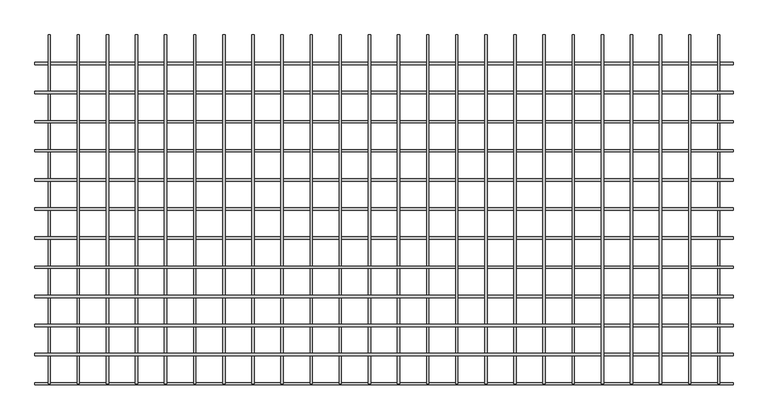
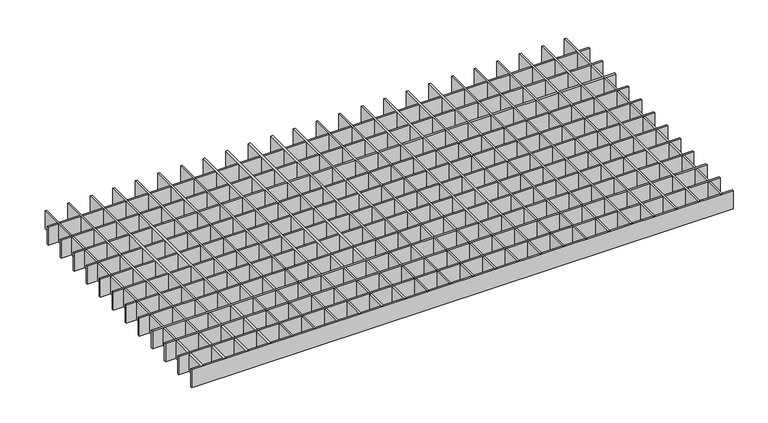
"""IFC4 building model written with IfcOpenShell, lengths in millimetres: proxy geometry, durlum_GEO_panel : durlum_GEO_4."""

from ifc_helpers import new_model, si_unit, origin, origin_with_axes, place, context, project, spatial, polyline, outline, extrude, source, transform, mapped, element, save


def generic_models_4dc628ab(model_context):
    return source(origin(), model_context, "Body", "SweptSolid", [
        extrude(outline(polyline([(523.0, 299.5), (527.0, 299.5), (527.0, -299.5), (523.0, -299.5), (523.0, 299.5)])), origin_with_axes(), (0.0, 0.0, 1.0), 42.0),
        extrude(outline(polyline([(473.0, 299.5), (477.0, 299.5), (477.0, -299.5), (473.0, -299.5), (473.0, 299.5)])), origin_with_axes(), (0.0, 0.0, 1.0), 42.0),
        extrude(outline(polyline([(423.0, 299.5), (427.0, 299.5), (427.0, -299.5), (423.0, -299.5), (423.0, 299.5)])), origin_with_axes(), (0.0, 0.0, 1.0), 42.0),
        extrude(outline(polyline([(373.0, 299.5), (377.0, 299.5), (377.0, -299.5), (373.0, -299.5), (373.0, 299.5)])), origin_with_axes(), (0.0, 0.0, 1.0), 42.0),
        extrude(outline(polyline([(599.5, -247.5), (599.5, -251.5), (-599.5, -251.5), (-599.5, -247.5), (599.5, -247.5)])), origin_with_axes(), (0.0, 0.0, 1.0), 42.0),
        extrude(outline(polyline([(599.5, -197.5), (599.5, -201.5), (-599.5, -201.5), (-599.5, -197.5), (599.5, -197.5)])), origin_with_axes(), (0.0, 0.0, 1.0), 42.0),
        extrude(outline(polyline([(323.0, 299.5), (327.0, 299.5), (327.0, -299.5), (323.0, -299.5), (323.0, 299.5)])), origin_with_axes(), (0.0, 0.0, 1.0), 42.0),
        extrude(outline(polyline([(273.0, 299.5), (277.0, 299.5), (277.0, -299.5), (273.0, -299.5), (273.0, 299.5)])), origin_with_axes(), (0.0, 0.0, 1.0), 42.0),
        extrude(outline(polyline([(223.0, 299.5), (227.0, 299.5), (227.0, -299.5), (223.0, -299.5), (223.0, 299.5)])), origin_with_axes(), (0.0, 0.0, 1.0), 42.0),
        extrude(outline(polyline([(173.0, 299.5), (177.0, 299.5), (177.0, -299.5), (173.0, -299.5), (173.0, 299.5)])), origin_with_axes(), (0.0, 0.0, 1.0), 42.0),
        extrude(outline(polyline([(123.0, 299.5), (127.0, 299.5), (127.0, -299.5), (123.0, -299.5), (123.0, 299.5)])), origin_with_axes(), (0.0, 0.0, 1.0), 42.0),
        extrude(outline(polyline([(599.5, -147.5), (599.5, -151.5), (-599.5, -151.5), (-599.5, -147.5), (599.5, -147.5)])), origin_with_axes(), (0.0, 0.0, 1.0), 42.0),
        extrude(outline(polyline([(599.5, -97.5), (599.5, -101.5), (-599.5, -101.5), (-599.5, -97.5), (599.5, -97.5)])), origin_with_axes(), (0.0, 0.0, 1.0), 42.0),
        extrude(outline(polyline([(73.0, 299.5), (77.0, 299.5), (77.0, -299.5), (73.0, -299.5), (73.0, 299.5)])), origin_with_axes(), (0.0, 0.0, 1.0), 42.0),
        extrude(outline(polyline([(23.0, 299.5), (27.0, 299.5), (27.0, -299.5), (23.0, -299.5), (23.0, 299.5)])), origin_with_axes(), (0.0, 0.0, 1.0), 42.0),
        extrude(outline(polyline([(-27.0, 299.5), (-23.0, 299.5), (-23.0, -299.5), (-27.0, -299.5), (-27.0, 299.5)])), origin_with_axes(), (0.0, 0.0, 1.0), 42.0),
        extrude(outline(polyline([(-77.0, 299.5), (-73.0, 299.5), (-73.0, -299.5), (-77.0, -299.5), (-77.0, 299.5)])), origin_with_axes(), (0.0, 0.0, 1.0), 42.0),
        extrude(outline(polyline([(-127.0, 299.5), (-123.0, 299.5), (-123.0, -299.5), (-127.0, -299.5), (-127.0, 299.5)])), origin_with_axes(), (0.0, 0.0, 1.0), 42.0),
        extrude(outline(polyline([(-177.0, 299.5), (-173.0, 299.5), (-173.0, -299.5), (-177.0, -299.5), (-177.0, 299.5)])), origin_with_axes(), (0.0, 0.0, 1.0), 42.0),
        extrude(outline(polyline([(-227.0, 299.5), (-223.0, 299.5), (-223.0, -299.5), (-227.0, -299.5), (-227.0, 299.5)])), origin_with_axes(), (0.0, 0.0, 1.0), 42.0),
        extrude(outline(polyline([(-277.0, 299.5), (-273.0, 299.5), (-273.0, -299.5), (-277.0, -299.5), (-277.0, 299.5)])), origin_with_axes(), (0.0, 0.0, 1.0), 42.0),
        extrude(outline(polyline([(-327.0, 299.5), (-323.0, 299.5), (-323.0, -299.5), (-327.0, -299.5), (-327.0, 299.5)])), origin_with_axes(), (0.0, 0.0, 1.0), 42.0),
        extrude(outline(polyline([(-377.0, 299.5), (-373.0, 299.5), (-373.0, -299.5), (-377.0, -299.5), (-377.0, 299.5)])), origin_with_axes(), (0.0, 0.0, 1.0), 42.0),
        extrude(outline(polyline([(-427.0, 299.5), (-423.0, 299.5), (-423.0, -299.5), (-427.0, -299.5), (-427.0, 299.5)])), origin_with_axes(), (0.0, 0.0, 1.0), 42.0),
        extrude(outline(polyline([(-477.0, 299.5), (-473.0, 299.5), (-473.0, -299.5), (-477.0, -299.5), (-477.0, 299.5)])), origin_with_axes(), (0.0, 0.0, 1.0), 42.0),
        extrude(outline(polyline([(-527.0, 299.5), (-523.0, 299.5), (-523.0, -299.5), (-527.0, -299.5), (-527.0, 299.5)])), origin_with_axes(), (0.0, 0.0, 1.0), 42.0),
        extrude(outline(polyline([(599.5, -47.5), (599.5, -51.5), (-599.5, -51.5), (-599.5, -47.5), (599.5, -47.5)])), origin_with_axes(), (0.0, 0.0, 1.0), 42.0),
        extrude(outline(polyline([(599.5, 2.5), (599.5, -1.5), (-599.5, -1.5), (-599.5, 2.5), (599.5, 2.5)])), origin_with_axes(), (0.0, 0.0, 1.0), 42.0),
        extrude(outline(polyline([(599.5, 52.5), (599.5, 48.5), (-599.5, 48.5), (-599.5, 52.5), (599.5, 52.5)])), origin_with_axes(), (0.0, 0.0, 1.0), 42.0),
        extrude(outline(polyline([(599.5, 102.5), (599.5, 98.5), (-599.5, 98.5), (-599.5, 102.5), (599.5, 102.5)])), origin_with_axes(), (0.0, 0.0, 1.0), 42.0),
        extrude(outline(polyline([(599.5, 152.5), (599.5, 148.5), (-599.5, 148.5), (-599.5, 152.5), (599.5, 152.5)])), origin_with_axes(), (0.0, 0.0, 1.0), 42.0),
        extrude(outline(polyline([(599.5, 202.5), (599.5, 198.5), (-599.5, 198.5), (-599.5, 202.5), (599.5, 202.5)])), origin_with_axes(), (0.0, 0.0, 1.0), 42.0),
        extrude(outline(polyline([(573.0, 299.5), (577.0, 299.5), (577.0, -299.5), (573.0, -299.5), (573.0, 299.5)])), origin_with_axes(), (0.0, 0.0, 1.0), 42.0),
        extrude(outline(polyline([(-577.0, 299.5), (-573.0, 299.5), (-573.0, -299.5), (-577.0, -299.5), (-577.0, 299.5)])), origin_with_axes(), (0.0, 0.0, 1.0), 42.0),
        extrude(outline(polyline([(599.5, -297.5), (599.5, -301.5), (-599.5, -301.5), (-599.5, -297.5), (599.5, -297.5)])), origin_with_axes(), (0.0, 0.0, 1.0), 42.0),
        extrude(outline(polyline([(599.5, 252.5), (599.5, 248.5), (-599.5, 248.5), (-599.5, 252.5), (599.5, 252.5)])), origin_with_axes(), (0.0, 0.0, 1.0), 42.0),
    ])


if __name__ == "__main__":
    model = new_model("IFC4")
    model_context = context("Model", 3, world=origin())
    ifc_project = project(units=[si_unit("LENGTHUNIT", "METRE", prefix="MILLI")], contexts=[model_context])
    site = spatial("IfcSite", under=ifc_project)
    building = spatial("IfcBuilding", under=site)
    placement = place(None, origin())
    generic_models_shape = generic_models_4dc628ab(model_context)
    element("IfcBuildingElementProxy", 1, Name="durlum_GEO_panel : durlum_GEO_4", ObjectType="durlum_GEO_panel : durlum_GEO_4", at=placement, inside=building, context=model_context, shape_type="MappedRepresentation", body=[
        mapped(generic_models_shape, transform((0.0, 0.0, 0.0), x_axis=(1.0, 0.0, 0.0), y_axis=(0.0, 1.0, 0.0), z_axis=(0.0, 0.0, 1.0))),
    ])
    save(model, "model.ifc")
